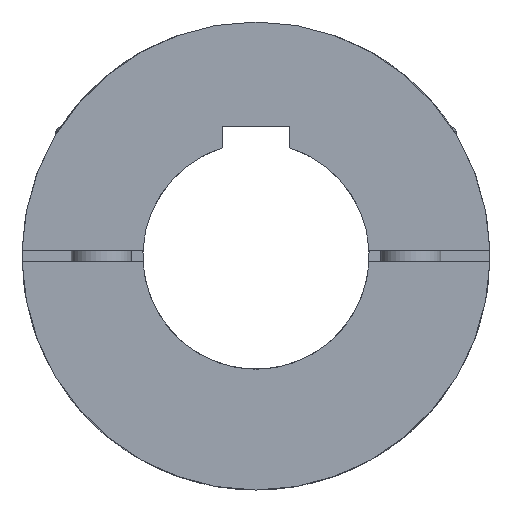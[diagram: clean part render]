
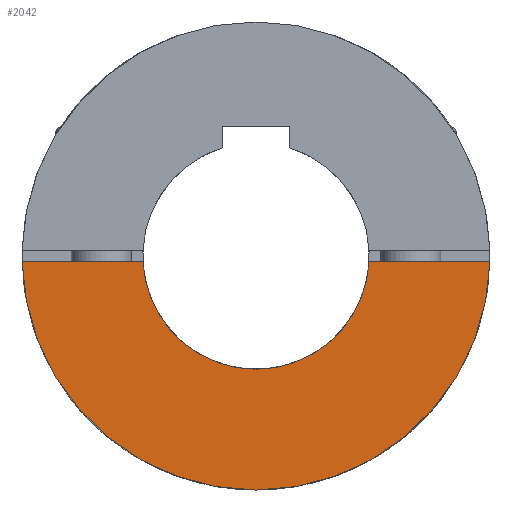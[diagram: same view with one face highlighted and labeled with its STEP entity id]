
A CAD part, left-side view. The second image highlights one B-rep face of the part: STEP entity #2042.
In plain terms, the highlighted planar face has unit normal (-1, 0, 0).
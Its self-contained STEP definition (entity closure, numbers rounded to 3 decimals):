
#41=PLANE('',#2315);
#234=FACE_OUTER_BOUND('',#376,.T.);
#376=EDGE_LOOP('',(#1753,#1754,#1755,#1756));
#502=LINE('',#3757,#645);
#540=LINE('',#3835,#683);
#645=VECTOR('',#2789,44.546);
#683=VECTOR('',#2859,44.546);
#733=CIRCLE('',#2116,62.);
#859=CIRCLE('',#2282,30.);
#867=VERTEX_POINT('',#3023);
#868=VERTEX_POINT('',#3025);
#1005=VERTEX_POINT('',#3700);
#1006=VERTEX_POINT('',#3701);
#1075=EDGE_CURVE('',#867,#868,#733,.T.);
#1249=EDGE_CURVE('',#1005,#1006,#859,.T.);
#1278=EDGE_CURVE('',#1006,#868,#502,.T.);
#1316=EDGE_CURVE('',#867,#1005,#540,.T.);
#1753=ORIENTED_EDGE('',*,*,#1249,.T.);
#1754=ORIENTED_EDGE('',*,*,#1278,.T.);
#1755=ORIENTED_EDGE('',*,*,#1075,.F.);
#1756=ORIENTED_EDGE('',*,*,#1316,.T.);
#2042=ADVANCED_FACE('',(#234),#41,.T.);
#2116=AXIS2_PLACEMENT_3D('',#3026,#2374,#2375);
#2282=AXIS2_PLACEMENT_3D('',#3702,#2738,#2739);
#2315=AXIS2_PLACEMENT_3D('',#3839,#2866,#2867);
#2374=DIRECTION('center_axis',(1.,0.,0.));
#2375=DIRECTION('ref_axis',(0.,0.,-1.));
#2738=DIRECTION('center_axis',(1.,0.,0.));
#2739=DIRECTION('ref_axis',(0.,0.,1.));
#2789=DIRECTION('',(0.,1.,0.));
#2859=DIRECTION('',(0.,1.,0.));
#2866=DIRECTION('center_axis',(-1.,0.,0.));
#2867=DIRECTION('ref_axis',(0.,-1.,0.));
#3023=CARTESIAN_POINT('',(0.,-61.982,-1.5));
#3025=CARTESIAN_POINT('',(0.,61.982,-1.5));
#3026=CARTESIAN_POINT('Origin',(0.,0.,0.));
#3700=CARTESIAN_POINT('',(0.,-29.962,-1.5));
#3701=CARTESIAN_POINT('',(0.,29.962,-1.5));
#3702=CARTESIAN_POINT('Origin',(0.,0.,0.));
#3757=CARTESIAN_POINT('',(0.,17.436,-1.5));
#3835=CARTESIAN_POINT('',(0.,-61.982,-1.5));
#3839=CARTESIAN_POINT('Origin',(0.,0.,-17.5));
